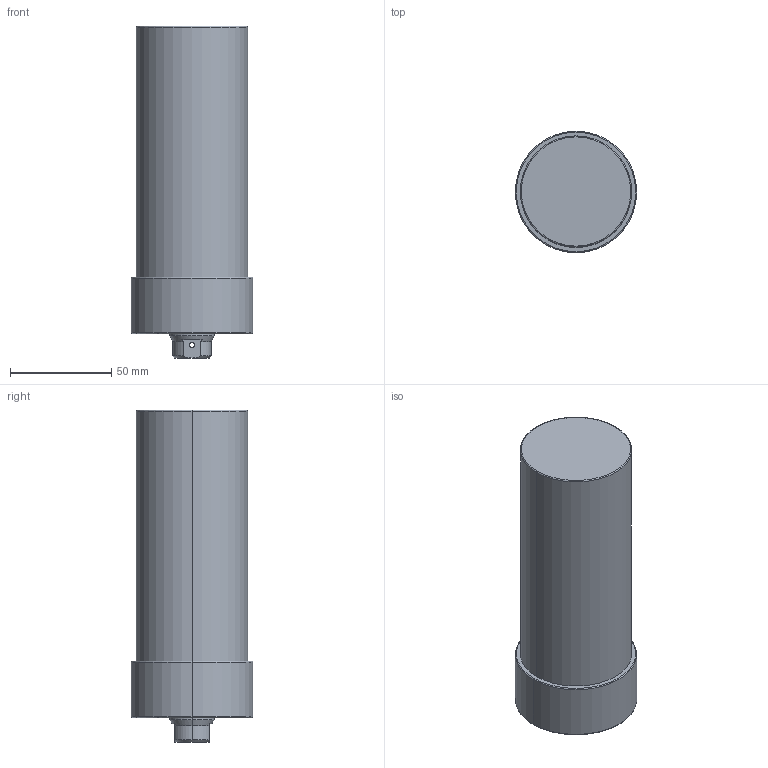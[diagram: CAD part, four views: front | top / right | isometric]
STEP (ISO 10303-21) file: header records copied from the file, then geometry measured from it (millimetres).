
FILE_DESCRIPTION (( 'STEP AP203' ), '1' );
FILE_NAME ('CLLU055-CB-095.STEP', '2017-05-18T06:32:40', ( '' ), ( '' ), 'SwSTEP 2.0', 'SolidWorks 2015', '' );
FILE_SCHEMA (( 'CONFIG_CONTROL_DESIGN' ));
Length unit declared in the file: millimetre
Products named in the file (1): CLLU055-CB-095
Bounding box: 60 x 60 x 164 mm (x, y, z)
Volume: 374061.7 mm3; surface area: 34796.8 mm2
Topology: 1 solids, 1 shells, 68 faces, 155 edges, 88 vertices
Faces by surface type: cylinder 27, cone 25, plane 10, torus 6
Entity records: 2021 total; most frequent: CARTESIAN_POINT 422, DIRECTION 350, ORIENTED_EDGE 290, AXIS2_PLACEMENT_3D 148, EDGE_CURVE 145, VERTEX_POINT 88, EDGE_LOOP 81, CIRCLE 79
